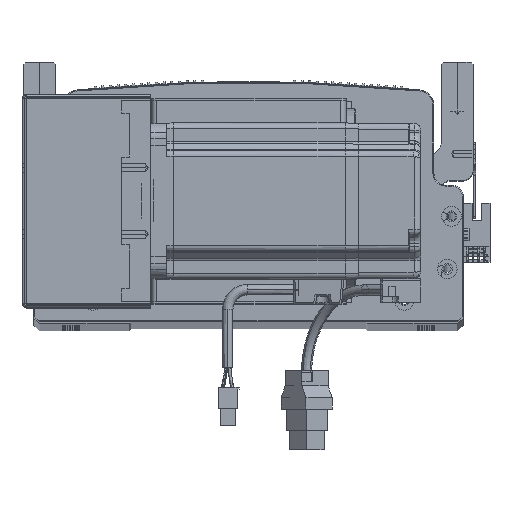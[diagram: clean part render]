
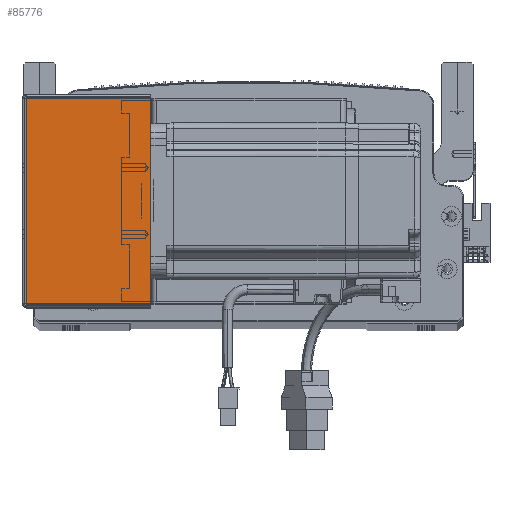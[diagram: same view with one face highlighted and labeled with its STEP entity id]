
A CAD part, top view. The second image highlights one B-rep face of the part: STEP entity #85776.
In plain terms, the highlighted planar face has unit normal (0, 0, 1) as drawn and (0, 0, -1) by its records, which use the part's own axes.
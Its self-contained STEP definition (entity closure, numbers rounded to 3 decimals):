
#2041 = CARTESIAN_POINT ( 'NONE',  ( 0., 0., -205.5 ) ) ;
#3744 = DIRECTION ( 'NONE',  ( 1., 0., 0. ) ) ;
#5607 = VECTOR ( 'NONE', #8019, 1000. ) ;
#6411 = ORIENTED_EDGE ( 'NONE', *, *, #72808, .F. ) ;
#8019 = DIRECTION ( 'NONE',  ( 0., -1., 0. ) ) ;
#9807 = FACE_OUTER_BOUND ( 'NONE', #86378, .T. ) ;
#9958 = VERTEX_POINT ( 'NONE', #15728 ) ;
#10793 = EDGE_CURVE ( 'NONE', #9958, #90328, #91377, .T. ) ;
#15728 = CARTESIAN_POINT ( 'NONE',  ( 0.737, 105.293, -205.5 ) ) ;
#16669 = DIRECTION ( 'NONE',  ( 0., 0., 1. ) ) ;
#19711 = LINE ( 'NONE', #58579, #28683 ) ;
#23511 = DIRECTION ( 'NONE',  ( 1., 0., 0. ) ) ;
#23729 = CARTESIAN_POINT ( 'NONE',  ( 0.737, 0.707, -205.5 ) ) ;
#26546 = VECTOR ( 'NONE', #3744, 1000. ) ;
#28683 = VECTOR ( 'NONE', #32289, 1000. ) ;
#29917 = VECTOR ( 'NONE', #85072, 1000. ) ;
#32289 = DIRECTION ( 'NONE',  ( 0., -1., 0. ) ) ;
#33528 = LINE ( 'NONE', #85122, #5607 ) ;
#38882 = EDGE_CURVE ( 'NONE', #90328, #65447, #33528, .T. ) ;
#41201 = ORIENTED_EDGE ( 'NONE', *, *, #45522, .F. ) ;
#44732 = VERTEX_POINT ( 'NONE', #23729 ) ;
#45027 = ORIENTED_EDGE ( 'NONE', *, *, #38882, .T. ) ;
#45522 = EDGE_CURVE ( 'NONE', #9958, #44732, #19711, .T. ) ;
#47520 = AXIS2_PLACEMENT_3D ( 'NONE', #2041, #16669, #23511 ) ;
#53399 = CARTESIAN_POINT ( 'NONE',  ( 0., 0.707, -205.5 ) ) ;
#58579 = CARTESIAN_POINT ( 'NONE',  ( 0.737, 0., -205.5 ) ) ;
#65447 = VERTEX_POINT ( 'NONE', #79252 ) ;
#70908 = CARTESIAN_POINT ( 'NONE',  ( 64.5, 105.293, -205.5 ) ) ;
#72808 = EDGE_CURVE ( 'NONE', #44732, #65447, #79090, .T. ) ;
#75233 = ORIENTED_EDGE ( 'NONE', *, *, #10793, .T. ) ;
#77589 = CARTESIAN_POINT ( 'NONE',  ( 0., 105.293, -205.5 ) ) ;
#79090 = LINE ( 'NONE', #53399, #26546 ) ;
#79252 = CARTESIAN_POINT ( 'NONE',  ( 64.5, 0.707, -205.5 ) ) ;
#85072 = DIRECTION ( 'NONE',  ( 1., 0., 0. ) ) ;
#85122 = CARTESIAN_POINT ( 'NONE',  ( 64.5, 0., -205.5 ) ) ;
#85776 = ADVANCED_FACE ( 'NONE', ( #9807 ), #88210, .F. ) ;
#86378 = EDGE_LOOP ( 'NONE', ( #41201, #75233, #45027, #6411 ) ) ;
#88210 = PLANE ( 'NONE',  #47520 ) ;
#90328 = VERTEX_POINT ( 'NONE', #70908 ) ;
#91377 = LINE ( 'NONE', #77589, #29917 ) ;
